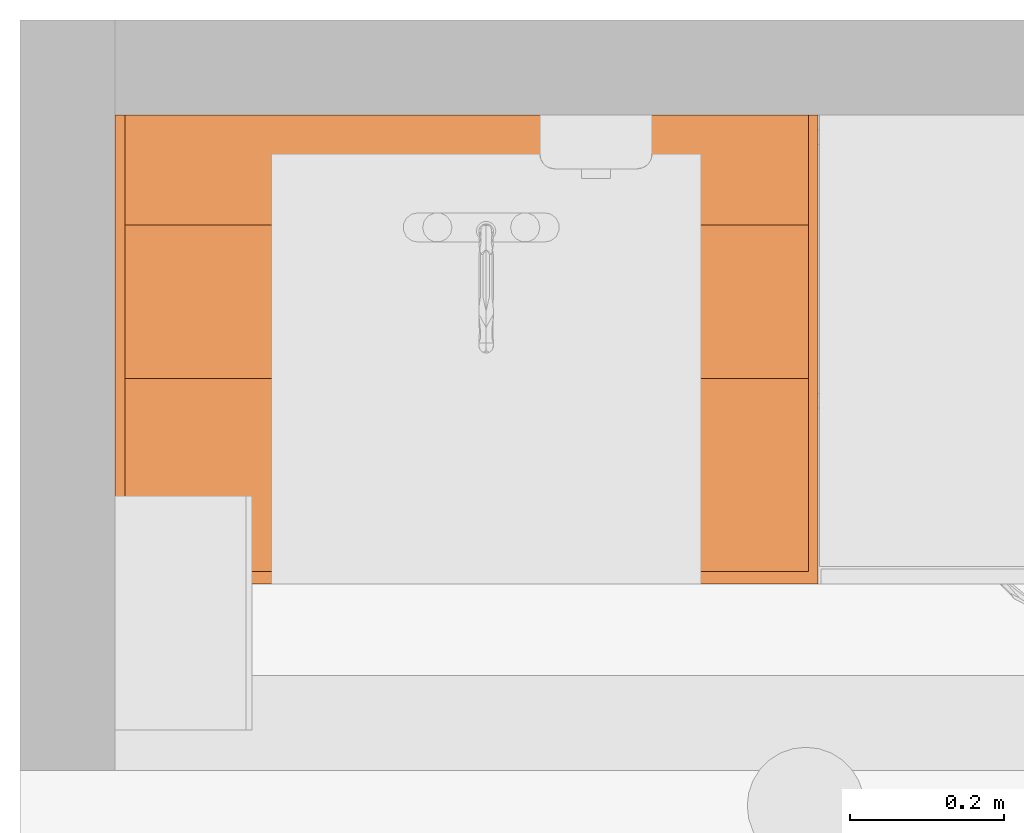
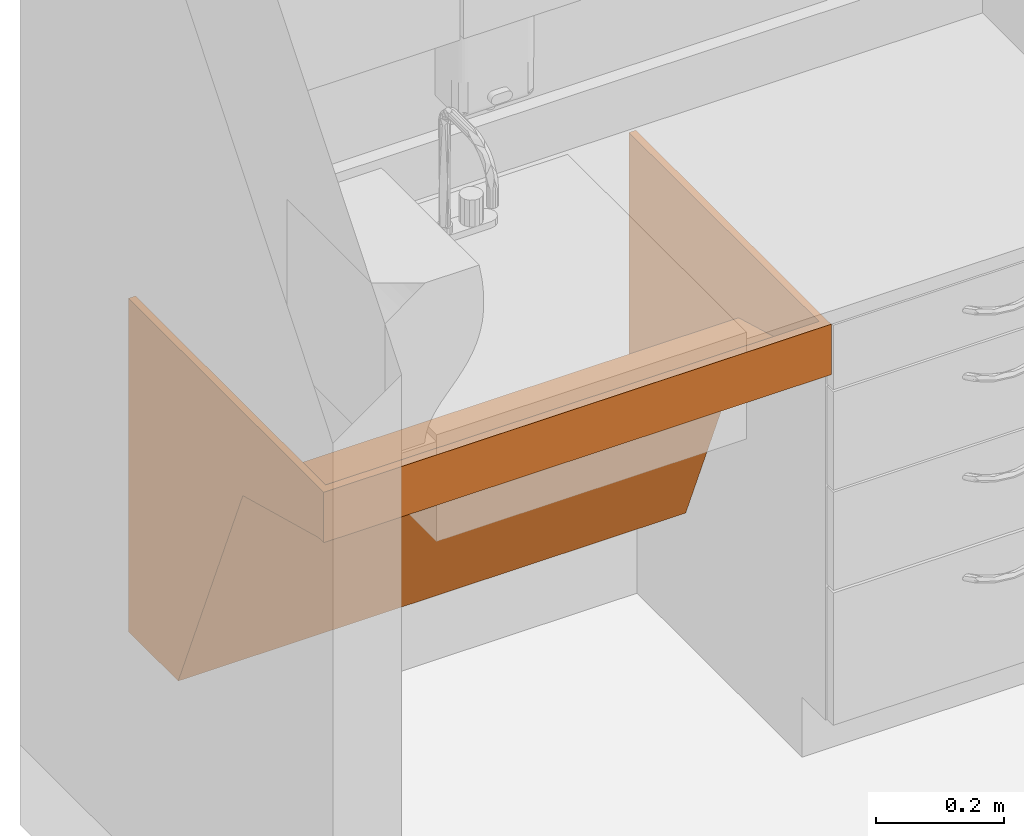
# One storey, part 6 of 8: 1 proxy.
"""IFC2X3 building model written with IfcOpenShell, lengths in feet."""

import ifcopenshell
import ifcopenshell.guid

model = None  # the IFC model being written
_history = None  # IfcOwnerHistory: only IFC2X3 demands one
_inside = {}  # id of a spatial element -> (the spatial element, [elements in it])
_under = {}  # id of a project, library or spatial element -> (it, [spatial elements below it])
_declared = {}  # id of a project -> (the project, [libraries it declares])
_typed = {}  # id of a type object -> (the type object, [elements of that type])
_made_of = {}  # id of a material, layer set ... -> (it, [elements and type objects made of it])


def new_model(schema):
    """Start an empty IFC model of exactly this schema.

    Asked for "IFC4X3", IfcOpenShell would pick the latest addendum, in which some entities
    have other attributes; the version numbers below select the first issue.
    IFC2X3 requires an IfcOwnerHistory on every rooted entity: one is made here for all.
    """
    global model, _history
    if schema == "IFC4X3":
        model = ifcopenshell.file(schema_version=(4, 3, 0, 0))
    else:
        model = ifcopenshell.file(schema=schema)
    _inside.clear()
    _under.clear()
    _declared.clear()
    _typed.clear()
    _made_of.clear()
    _history = None
    if model.schema == "IFC2X3":
        org = make("IfcOrganization", Name="unknown")
        user = make(
            "IfcPersonAndOrganization",
            ThePerson=make("IfcPerson", FamilyName="unknown"),
            TheOrganization=org,
        )
        app = make(
            "IfcApplication",
            ApplicationDeveloper=org,
            Version="unknown",
            ApplicationFullName="unknown",
            ApplicationIdentifier="unknown",
        )
        _history = make(
            "IfcOwnerHistory",
            OwningUser=user,
            OwningApplication=app,
            ChangeAction="ADDED",
            CreationDate=0,
        )
    return model


def make(cls, **values):
    """One entity of the class cls with the attributes given. An attribute that is None is left unset."""
    return model.create_entity(
        cls, **{name: value for name, value in values.items() if value is not None}
    )


def entity(cls, *values):
    """Any entity or typed value of the class cls, its attributes in the order of the schema. None: left unset."""
    e = model.create_entity(cls)
    for i, value in enumerate(values):
        if value is not None:
            e[i] = value
    return e


def rooted(cls, **values):
    """An entity with a GlobalId (a new one), such as an element, a storey or a relation."""
    return make(cls, GlobalId=ifcopenshell.guid.new(), OwnerHistory=_history, **values)


def si_unit(unit_type, name, prefix=None):
    """IfcSIUnit, for example si_unit("LENGTHUNIT", "METRE", prefix="MILLI")."""
    return make("IfcSIUnit", UnitType=unit_type, Prefix=prefix, Name=name)


def converted_unit(unit_type, name, factor, base, dimensions=None, offset=None):
    """IfcConversionBasedUnit, such as the inch: factor (a typed value) times the base unit."""
    return make(
        "IfcConversionBasedUnit"
        if offset is None
        else "IfcConversionBasedUnitWithOffset",
        ConversionOffset=offset,
        Dimensions=None
        if dimensions is None
        else entity("IfcDimensionalExponents", *dimensions),
        UnitType=unit_type,
        Name=name,
        ConversionFactor=make(
            "IfcMeasureWithUnit", ValueComponent=factor, UnitComponent=base
        ),
    )


def derived_unit(unit_type, elements):
    """IfcDerivedUnit: a product of units, each with its exponent."""
    return make(
        "IfcDerivedUnit",
        Elements=[
            make("IfcDerivedUnitElement", Unit=unit, Exponent=power)
            for unit, power in elements
        ],
        UnitType=unit_type,
    )


def assignment(units):
    """IfcUnitAssignment: the units of a project."""
    return None if units is None else make("IfcUnitAssignment", Units=units)


def point(xyz):
    """IfcCartesianPoint."""
    return None if xyz is None else make("IfcCartesianPoint", Coordinates=xyz)


def direction(xyz):
    """IfcDirection."""
    return None if xyz is None else make("IfcDirection", DirectionRatios=xyz)


def frame(location, z_axis=None, x_axis=None):
    """IfcAxis2Placement3D, a coordinate frame: its origin and axes. An axis left out is left unset."""
    return make(
        "IfcAxis2Placement3D",
        Location=point(location),
        Axis=direction(z_axis),
        RefDirection=direction(x_axis),
    )


def origin():
    """The frame at (0, 0, 0) with its axes left unset."""
    return frame((0.0, 0.0, 0.0))


def place(relative_to, where):
    """IfcLocalPlacement: puts the frame where relative to a parent placement (None: the world)."""
    return make(
        "IfcLocalPlacement", PlacementRelTo=relative_to, RelativePlacement=where
    )


def context(
    kind, dimensions, precision=None, world=None, true_north=None, identifier=None
):
    """IfcGeometricRepresentationContext, for example the 3D "Model" context."""
    return make(
        "IfcGeometricRepresentationContext",
        ContextIdentifier=identifier,
        ContextType=kind,
        CoordinateSpaceDimension=dimensions,
        Precision=precision,
        WorldCoordinateSystem=world,
        TrueNorth=true_north,
    )


def subcontext(parent, identifier, kind, view, scale=None):
    """IfcGeometricRepresentationSubContext, for example "Body" below "Model"."""
    return make(
        "IfcGeometricRepresentationSubContext",
        ContextIdentifier=identifier,
        ContextType=kind,
        ParentContext=parent,
        TargetScale=scale,
        TargetView=view,
    )


def project(units=None, contexts=None):
    """IfcProject with its units and contexts."""
    return rooted(
        "IfcProject",
        Name="project",
        RepresentationContexts=contexts,
        UnitsInContext=assignment(units),
    )


def spatial(cls, under=None, at=None, **own):
    """A site, building, storey or space (cls), placed at a placement, below another one or the project."""
    s = rooted(cls, ObjectPlacement=at, **own)
    if under is not None:
        _under.setdefault(under.id(), (under, []))[1].append(s)
    return s


def faces_of(points, faces, orient=None, outer=None):
    """IfcFace entities. A face is a list of loops; a loop is a list of indices into points, from 0.

    orient and outer hold one flag for each loop. By default every Orientation is true, the
    first loop of a face is its IfcFaceOuterBound and the others are IfcFaceBound.
    """
    made = []
    for i, loops in enumerate(faces):
        bounds = []
        for j, loop in enumerate(loops):
            is_outer = j == 0 if outer is None else outer[i][j]
            bounds.append(
                make(
                    "IfcFaceOuterBound" if is_outer else "IfcFaceBound",
                    Bound=make("IfcPolyLoop", Polygon=[points[k] for k in loop]),
                    Orientation=True if orient is None else orient[i][j],
                )
            )
        made.append(make("IfcFace", Bounds=bounds))
    return made


def faceted_brep(points, faces, orient=None, outer=None, voids=None):
    """IfcFacetedBrep: a solid bounded by flat faces; with voids (closed shells), ...WithVoids."""
    shared = [point(p) for p in points]
    hull = make("IfcClosedShell", CfsFaces=faces_of(shared, faces, orient, outer))
    if voids is None:
        return make("IfcFacetedBrep", Outer=hull)
    return make(
        "IfcFacetedBrepWithVoids",
        Outer=hull,
        Voids=[
            make(cls, CfsFaces=faces_of(shared, fs, o, b)) for cls, fs, o, b in voids
        ],
    )


def shape(context_of_items, identifier, shape_type, items):
    """IfcShapeRepresentation: the items that make up one representation, for example the "Body"."""
    return make(
        "IfcShapeRepresentation",
        ContextOfItems=context_of_items,
        RepresentationIdentifier=identifier,
        RepresentationType=shape_type,
        Items=items,
    )


def source(mapping_origin, context_of_items, identifier, shape_type, items):
    """IfcRepresentationMap: a shape defined once, which mapped items show again and again."""
    return make(
        "IfcRepresentationMap",
        MappingOrigin=mapping_origin,
        MappedRepresentation=shape(context_of_items, identifier, shape_type, items),
    )


def transform(
    local_origin,
    x_axis=None,
    y_axis=None,
    z_axis=None,
    scale=None,
    scale2=None,
    scale3=None,
    uniform=True,
):
    """IfcCartesianTransformationOperator3D, or its non-uniform kind. x_axis, y_axis, z_axis: its Axis1, 2, 3."""
    if uniform:
        return make(
            "IfcCartesianTransformationOperator3D",
            Axis1=direction(x_axis),
            Axis2=direction(y_axis),
            LocalOrigin=point(local_origin),
            Scale=scale,
            Axis3=direction(z_axis),
        )
    return make(
        "IfcCartesianTransformationOperator3DnonUniform",
        Axis1=direction(x_axis),
        Axis2=direction(y_axis),
        LocalOrigin=point(local_origin),
        Scale=scale,
        Axis3=direction(z_axis),
        Scale2=scale2,
        Scale3=scale3,
    )


def mapped(mapping_source, mapping_target):
    """IfcMappedItem: shows the shape of a source again, moved by a transform."""
    return make(
        "IfcMappedItem", MappingSource=mapping_source, MappingTarget=mapping_target
    )


def made_of(thing, what):
    """Note that an element or type object is made of a material, layer set ...; save() writes the relation."""
    if what is not None:
        _made_of.setdefault(what.id(), (what, []))[1].append(thing)
    return thing


def type_object(cls, material=None, **own):
    """A type object (cls), such as IfcWallType, which elements share."""
    return made_of(rooted(cls, **own), material)


def type_shapes(of_type, sources):
    """Give a type object the sources (RepresentationMaps) that its elements show as mapped items."""
    of_type.RepresentationMaps = sources


def element(
    cls,
    number,
    at=None,
    inside=None,
    cuts=None,
    type_object=None,
    material=None,
    context=None,
    identifier="Body",
    shape_type=None,
    held_by="IfcProductDefinitionShape",
    body=None,
    shapes=None,
    **own,
):
    """One element of the class cls, such as IfcWall. Its Tag is "e" and its number.

    at: its placement. inside: the storey or other place that contains it. cuts: it is an
    opening in that element (IfcRelVoidsElement). A single representation is given by context,
    identifier, shape_type and body (its items); several are given by shapes. held_by: the class
    of the entity that holds the representations. save() writes the other relations.
    """
    e = rooted(cls, Tag="e%d" % number, ObjectPlacement=at, **own)
    if body is not None:
        shapes = [shape(context, identifier, shape_type, body)]
    if shapes is not None:
        e.Representation = make(held_by, Representations=shapes)
    if inside is not None:
        _inside.setdefault(inside.id(), (inside, []))[1].append(e)
    if cuts is not None:
        rooted(
            "IfcRelVoidsElement", RelatingBuildingElement=cuts, RelatedOpeningElement=e
        )
    if type_object is not None:
        _typed.setdefault(type_object.id(), (type_object, []))[1].append(e)
    return made_of(e, material)


def aggregate(whole, parts):
    """IfcRelAggregates: a whole, such as a stair, and the parts it consists of."""
    return rooted("IfcRelAggregates", RelatingObject=whole, RelatedObjects=parts)


def save(model, path):
    """Write the relations noted so far, then the file.

    IfcRelAggregates (storeys below a building ...), IfcRelContainedInSpatialStructure (elements
    in a storey), IfcRelDefinesByType, IfcRelAssociatesMaterial and IfcRelDeclares: one each for
    every whole, place, type object, material and project.
    """
    for whole, parts in _under.values():
        aggregate(whole, parts)
    for where, things in _inside.values():
        rooted(
            "IfcRelContainedInSpatialStructure",
            RelatedElements=things,
            RelatingStructure=where,
        )
    for kind, things in _typed.values():
        rooted("IfcRelDefinesByType", RelatedObjects=things, RelatingType=kind)
    for what, things in _made_of.values():
        rooted("IfcRelAssociatesMaterial", RelatedObjects=things, RelatingMaterial=what)
    for by, libraries in _declared.values():
        rooted("IfcRelDeclares", RelatingContext=by, RelatedDefinitions=libraries)
    model.write(path)


model = new_model("IFC2X3")

# Units and contexts
model_context = context("Model", 3, precision=0.0001, world=origin(), true_north=direction((6.12303176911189e-17, 1.0)))
body_context = subcontext(model_context, "Body", "Model", "MODEL_VIEW")
ifc_project = project(units=[converted_unit("LENGTHUNIT", "FOOT", entity("IfcRatioMeasure", 0.3048), si_unit("LENGTHUNIT", "METRE"), dimensions=[1, 0, 0, 0, 0, 0, 0]), converted_unit("AREAUNIT", "SQUARE FOOT", entity("IfcRatioMeasure", 0.09290304), si_unit("AREAUNIT", "SQUARE_METRE"), dimensions=[2, 0, 0, 0, 0, 0, 0]), converted_unit("VOLUMEUNIT", "CUBIC FOOT", entity("IfcRatioMeasure", 0.028316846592), si_unit("VOLUMEUNIT", "CUBIC_METRE"), dimensions=[3, 0, 0, 0, 0, 0, 0]), converted_unit("PLANEANGLEUNIT", "DEGREE", entity("IfcRatioMeasure", 0.0174532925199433), si_unit("PLANEANGLEUNIT", "RADIAN"), dimensions=[0, 0, 0, 0, 0, 0, 0]), si_unit("MASSUNIT", "GRAM", prefix="KILO"), derived_unit("MASSDENSITYUNIT", [(si_unit("MASSUNIT", "GRAM", prefix="KILO"), 1), (si_unit("LENGTHUNIT", "METRE"), -3)]), si_unit("TIMEUNIT", "SECOND"), si_unit("FREQUENCYUNIT", "HERTZ"), si_unit("THERMODYNAMICTEMPERATUREUNIT", "DEGREE_CELSIUS"), derived_unit("THERMALTRANSMITTANCEUNIT", [(si_unit("MASSUNIT", "GRAM", prefix="KILO"), 1), (si_unit("THERMODYNAMICTEMPERATUREUNIT", "KELVIN"), -1), (si_unit("TIMEUNIT", "SECOND"), -3)]), derived_unit("VOLUMETRICFLOWRATEUNIT", [(si_unit("LENGTHUNIT", "METRE"), 3), (si_unit("TIMEUNIT", "SECOND"), -1)]), si_unit("ELECTRICCURRENTUNIT", "AMPERE"), si_unit("ELECTRICVOLTAGEUNIT", "VOLT"), si_unit("POWERUNIT", "WATT"), si_unit("FORCEUNIT", "NEWTON"), si_unit("ILLUMINANCEUNIT", "LUX"), si_unit("LUMINOUSFLUXUNIT", "LUMEN"), si_unit("LUMINOUSINTENSITYUNIT", "CANDELA"), derived_unit("USERDEFINED", [(si_unit("MASSUNIT", "GRAM", prefix="KILO"), -1), (si_unit("LENGTHUNIT", "METRE"), -2), (si_unit("TIMEUNIT", "SECOND"), 3), (si_unit("LUMINOUSFLUXUNIT", "LUMEN"), 1)]), derived_unit("LINEARVELOCITYUNIT", [(si_unit("LENGTHUNIT", "METRE"), 1), (si_unit("TIMEUNIT", "SECOND"), -1)]), si_unit("PRESSUREUNIT", "PASCAL"), derived_unit("USERDEFINED", [(si_unit("LENGTHUNIT", "METRE"), -2), (si_unit("MASSUNIT", "GRAM", prefix="KILO"), 1), (si_unit("TIMEUNIT", "SECOND"), -2)])], contexts=[model_context])

# Site, building, storey, space
site_placement = place(None, origin())
site = spatial("IfcSite", under=ifc_project, at=site_placement, Name="Default", CompositionType="ELEMENT")
building_placement = place(site_placement, origin())
building = spatial("IfcBuilding", under=site, at=building_placement, Name="EYE CLINIC:  OPTHALMOLOGY AND OPTOMETRY SERVICES (Ch. 233)", CompositionType="ELEMENT")
storey_placement = place(building_placement, origin())
storey = spatial("IfcBuildingStorey", under=building, at=storey_placement, Name="DATUM", CompositionType="ELEMENT", Elevation=0.0)
space_placement = place(storey_placement, origin())
space = spatial("IfcSpace", under=storey, at=space_placement, Name="(OPFD1)", CompositionType="ELEMENT", InteriorOrExteriorSpace="INTERNAL")

# Proxy
building_element_proxy_type = type_object("IfcBuildingElementProxyType", Name="3'", PredefinedType="NOTDEFINED")
shared_shape = source(origin(), body_context, "Body", "Brep", [
    faceted_brep([(3.0, 1.49008399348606, 0.0), (3.0, 0.828216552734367, 1.56053652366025), (0.0, 0.82821655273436, 1.56053652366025), (0.0, 1.49008399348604, 0.0), (3.0, 2.0, 0.0), (0.0, 2.0, 0.0), (0.0416666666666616, 2.0, 0.062500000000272), (2.9583333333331, 2.0, 0.0625000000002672), (2.95833333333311, 2.0, 2.08333333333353), (3.0, 2.0, 2.08333333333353), (0.0, 2.0, 2.08333333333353), (0.0416666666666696, 2.0, 2.08333333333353), (0.0416666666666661, 1.53146504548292, 0.062500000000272), (2.9583333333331, 1.53146504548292, 0.0625000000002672), (0.0416666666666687, 0.876331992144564, 1.60715833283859), (2.95833333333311, 0.876331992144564, 1.60715833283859), (0.0416666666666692, 0.0527083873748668, 1.83812404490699), (2.95833333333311, 0.0527083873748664, 1.83812404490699), (3.0, 0.0527083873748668, 1.76833333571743), (0.0, 0.0527083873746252, 1.76833333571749), (3.0, 0.0, 2.08333333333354), (3.0, 0.0, 1.76833333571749), (2.95833333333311, 0.0527083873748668, 2.08333333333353), (0.0416666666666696, 0.0527083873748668, 2.08333333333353), (0.0, 0.0, 2.08333333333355), (0.0, 0.0, 1.76833333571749)], [[[0, 1, 2, 3]], [[4, 0, 3, 5]], [[6, 7, 8, 9, 4, 5, 10, 11]], [[7, 6, 12, 13]], [[13, 12, 14, 15]], [[15, 14, 16, 17]], [[1, 18, 19, 2]], [[4, 9, 20, 21, 18, 1, 0]], [[22, 8, 7, 13, 15, 17]], [[20, 9, 8, 22, 23, 11, 10, 24]], [[11, 23, 16, 14, 12, 6]], [[5, 3, 2, 19, 25, 24, 10]], [[23, 22, 17, 16]], [[21, 20, 24, 25]], [[18, 21, 25, 19]]]),
])
type_shapes(building_element_proxy_type, [shared_shape])
proxy_placement = place(space_placement, frame((379.563539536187, 9.72928626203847, 0.812499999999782)))
element("IfcBuildingElementProxy", 1, at=proxy_placement, inside=space, type_object=building_element_proxy_type, Name="C02Q01 - Cabinet, ADA Sink Support:3'", ObjectType="3'", context=body_context, shape_type="MappedRepresentation", body=[
    mapped(shared_shape, transform((0.0, 0.0, 0.0), scale=1.0)),
])

save(model, "model.ifc")
